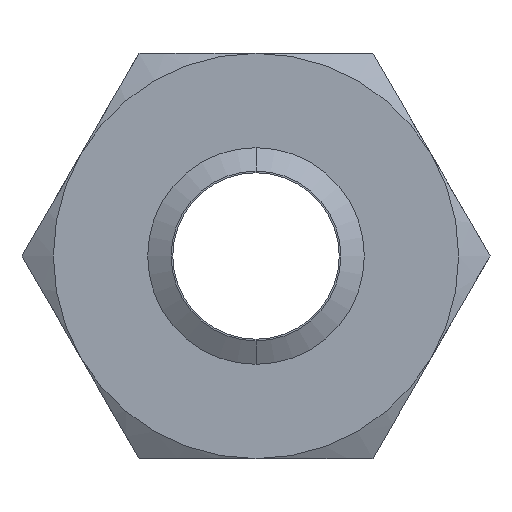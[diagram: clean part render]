
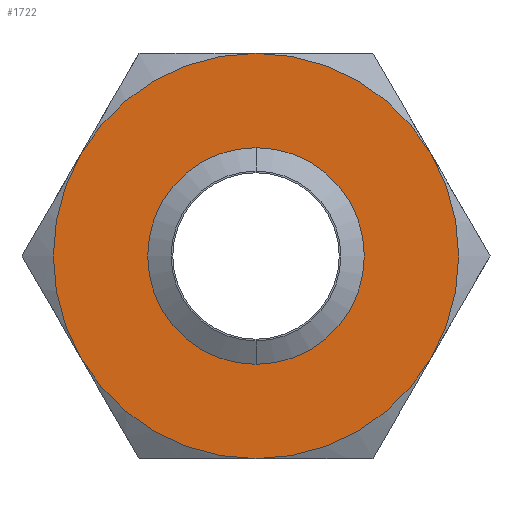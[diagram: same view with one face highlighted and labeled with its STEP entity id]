
A CAD part, front view. The second image highlights one B-rep face of the part: STEP entity #1722.
In plain terms, the highlighted planar face has unit normal (0, -1, 0).
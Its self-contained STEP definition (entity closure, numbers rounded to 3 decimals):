
#441 = CARTESIAN_POINT ( 'NONE',  ( 41.136, 0., 23.75 ) ) ;
#449 = CARTESIAN_POINT ( 'NONE',  ( 0., 0., -47.5 ) ) ;
#452 = CARTESIAN_POINT ( 'NONE',  ( -41.136, 0., 23.75 ) ) ;
#490 = DIRECTION ( 'NONE',  ( 0., 1., 0. ) ) ;
#491 = CARTESIAN_POINT ( 'NONE',  ( 0., 0., 0. ) ) ;
#492 = AXIS2_PLACEMENT_3D ( 'NONE', #491, #490, #550 ) ;
#493 = CIRCLE ( 'NONE', #492, 47.5 ) ;
#495 = CARTESIAN_POINT ( 'NONE',  ( 41.136, 0., -23.75 ) ) ;
#496 = CARTESIAN_POINT ( 'NONE',  ( 0., 0., 47.5 ) ) ;
#525 = DIRECTION ( 'NONE',  ( 0., 0., 1. ) ) ;
#526 = DIRECTION ( 'NONE',  ( 0., 1., 0. ) ) ;
#527 = CARTESIAN_POINT ( 'NONE',  ( 0., 0., 0. ) ) ;
#528 = AXIS2_PLACEMENT_3D ( 'NONE', #527, #526, #525 ) ;
#529 = CIRCLE ( 'NONE', #528, 47.5 ) ;
#531 = DIRECTION ( 'NONE',  ( 0., 0., 1. ) ) ;
#532 = DIRECTION ( 'NONE',  ( 0., 1., 0. ) ) ;
#533 = CARTESIAN_POINT ( 'NONE',  ( 0., 0., 0. ) ) ;
#534 = AXIS2_PLACEMENT_3D ( 'NONE', #533, #532, #531 ) ;
#535 = CIRCLE ( 'NONE', #534, 47.5 ) ;
#542 = DIRECTION ( 'NONE',  ( 0., 0., 1. ) ) ;
#543 = DIRECTION ( 'NONE',  ( 0., 1., 0. ) ) ;
#544 = CARTESIAN_POINT ( 'NONE',  ( 0., 0., 0. ) ) ;
#545 = AXIS2_PLACEMENT_3D ( 'NONE', #544, #543, #542 ) ;
#546 = CIRCLE ( 'NONE', #545, 47.5 ) ;
#550 = DIRECTION ( 'NONE',  ( 0., 0., 1. ) ) ;
#606 = CARTESIAN_POINT ( 'NONE',  ( -41.136, 0., -23.75 ) ) ;
#608 = DIRECTION ( 'NONE',  ( 0., 0., -1. ) ) ;
#609 = DIRECTION ( 'NONE',  ( 0., -1., 0. ) ) ;
#610 = CARTESIAN_POINT ( 'NONE',  ( 0., 0., 0. ) ) ;
#611 = AXIS2_PLACEMENT_3D ( 'NONE', #610, #609, #608 ) ;
#612 = CIRCLE ( 'NONE', #611, 19.901 ) ;
#616 = DIRECTION ( 'NONE',  ( 0., 0., 1. ) ) ;
#617 = DIRECTION ( 'NONE',  ( 0., 1., 0. ) ) ;
#618 = CARTESIAN_POINT ( 'NONE',  ( 0., 0., 0. ) ) ;
#619 = AXIS2_PLACEMENT_3D ( 'NONE', #618, #617, #616 ) ;
#620 = DIRECTION ( 'NONE',  ( 0., 0., 1. ) ) ;
#621 = DIRECTION ( 'NONE',  ( 0., 1., 0. ) ) ;
#622 = CARTESIAN_POINT ( 'NONE',  ( 27.424, 0., -47.5 ) ) ;
#623 = CIRCLE ( 'NONE', #619, 47.5 ) ;
#624 = AXIS2_PLACEMENT_3D ( 'NONE', #622, #621, #620 ) ;
#625 = PLANE ( 'NONE',  #624 ) ;
#626 = FACE_BOUND ( 'NONE', #1662, .T. ) ;
#627 = FACE_OUTER_BOUND ( 'NONE', #1719, .T. ) ;
#638 = DIRECTION ( 'NONE',  ( 0., 0., 1. ) ) ;
#639 = DIRECTION ( 'NONE',  ( 0., 1., 0. ) ) ;
#640 = CARTESIAN_POINT ( 'NONE',  ( 0., 0., 0. ) ) ;
#641 = AXIS2_PLACEMENT_3D ( 'NONE', #640, #639, #638 ) ;
#642 = CIRCLE ( 'NONE', #641, 47.5 ) ;
#1075 = CARTESIAN_POINT ( 'NONE',  ( 0., 0., 19.901 ) ) ;
#1076 = DIRECTION ( 'NONE',  ( 0., 0., -1. ) ) ;
#1077 = DIRECTION ( 'NONE',  ( 0., -1., 0. ) ) ;
#1078 = CARTESIAN_POINT ( 'NONE',  ( 0., 0., 0. ) ) ;
#1079 = AXIS2_PLACEMENT_3D ( 'NONE', #1078, #1077, #1076 ) ;
#1080 = CIRCLE ( 'NONE', #1079, 19.901 ) ;
#1088 = CARTESIAN_POINT ( 'NONE',  ( 0., 0., -19.901 ) ) ;
#1618 = VERTEX_POINT ( 'NONE', #452 ) ;
#1621 = VERTEX_POINT ( 'NONE', #449 ) ;
#1625 = ORIENTED_EDGE ( 'NONE', *, *, #1714, .F. ) ;
#1628 = VERTEX_POINT ( 'NONE', #441 ) ;
#1662 = EDGE_LOOP ( 'NONE', ( #1664, #1666 ) ) ;
#1664 = ORIENTED_EDGE ( 'NONE', *, *, #1939, .F. ) ;
#1665 = VERTEX_POINT ( 'NONE', #496 ) ;
#1666 = ORIENTED_EDGE ( 'NONE', *, *, #1702, .F. ) ;
#1668 = ORIENTED_EDGE ( 'NONE', *, *, #1670, .F. ) ;
#1669 = VERTEX_POINT ( 'NONE', #495 ) ;
#1670 = EDGE_CURVE ( 'NONE', #1628, #1669, #493, .T. ) ;
#1673 = ORIENTED_EDGE ( 'NONE', *, *, #1674, .F. ) ;
#1674 = EDGE_CURVE ( 'NONE', #1669, #1621, #546, .T. ) ;
#1680 = ORIENTED_EDGE ( 'NONE', *, *, #1681, .F. ) ;
#1681 = EDGE_CURVE ( 'NONE', #1621, #1704, #535, .T. ) ;
#1686 = EDGE_CURVE ( 'NONE', #1704, #1618, #529, .T. ) ;
#1688 = ORIENTED_EDGE ( 'NONE', *, *, #1686, .F. ) ;
#1702 = EDGE_CURVE ( 'NONE', #1940, #1934, #612, .T. ) ;
#1704 = VERTEX_POINT ( 'NONE', #606 ) ;
#1714 = EDGE_CURVE ( 'NONE', #1618, #1665, #642, .T. ) ;
#1719 = EDGE_LOOP ( 'NONE', ( #1723, #1625, #1688, #1680, #1673, #1668 ) ) ;
#1722 = ADVANCED_FACE ( 'NONE', ( #627, #626 ), #625, .F. ) ;
#1723 = ORIENTED_EDGE ( 'NONE', *, *, #1724, .F. ) ;
#1724 = EDGE_CURVE ( 'NONE', #1665, #1628, #623, .T. ) ;
#1934 = VERTEX_POINT ( 'NONE', #1088 ) ;
#1939 = EDGE_CURVE ( 'NONE', #1934, #1940, #1080, .T. ) ;
#1940 = VERTEX_POINT ( 'NONE', #1075 ) ;
